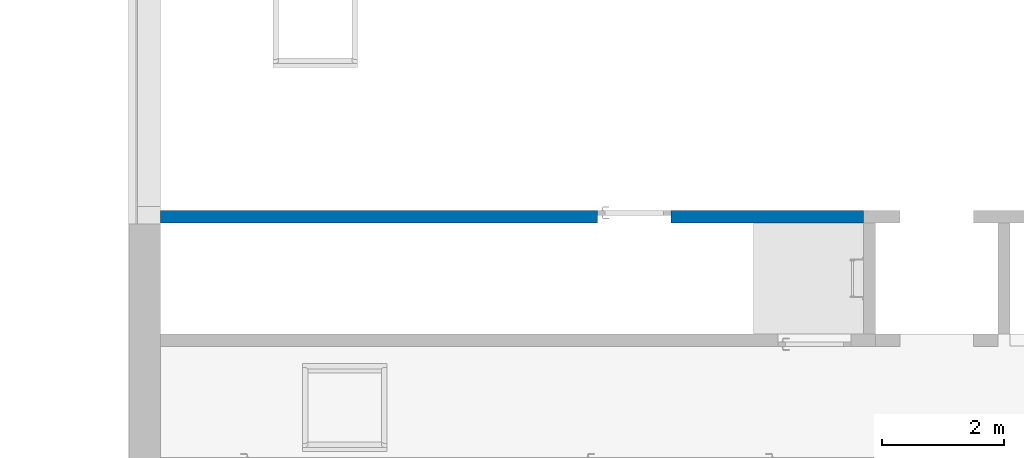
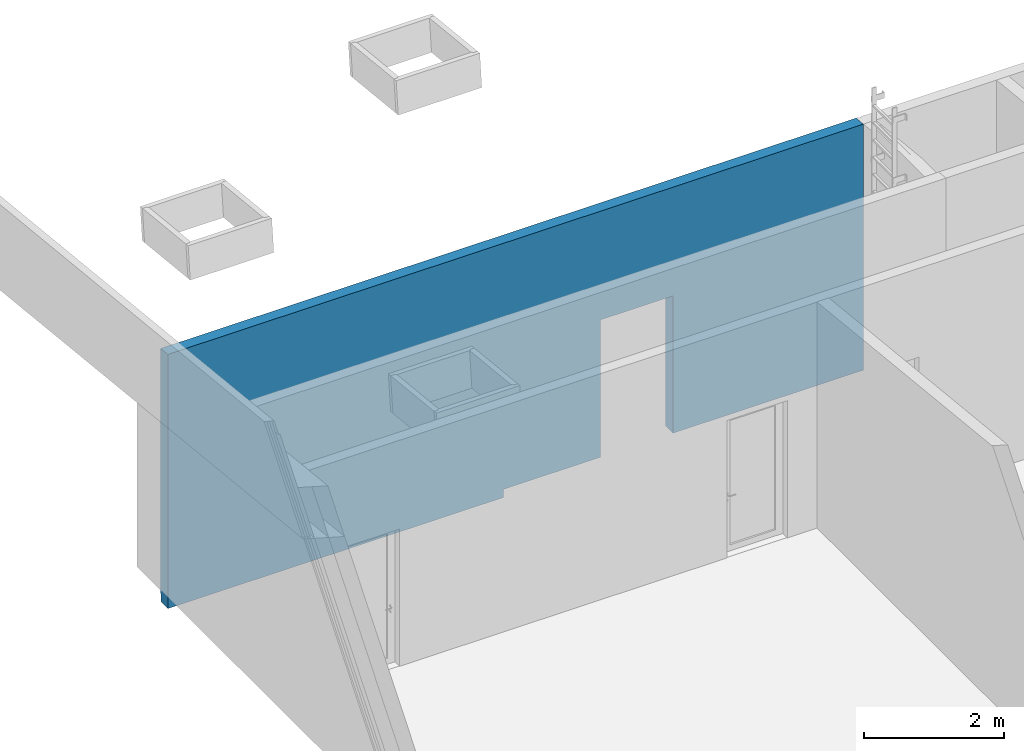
# One storey, part 5 of 23: 1 wall, 1 opening.
"""IFC2X3 building model written with IfcOpenShell, lengths in millimetres."""

import ifcopenshell
import ifcopenshell.guid

model = None  # the IFC model being written
_history = None  # IfcOwnerHistory: only IFC2X3 demands one
_inside = {}  # id of a spatial element -> (the spatial element, [elements in it])
_under = {}  # id of a project, library or spatial element -> (it, [spatial elements below it])
_declared = {}  # id of a project -> (the project, [libraries it declares])
_typed = {}  # id of a type object -> (the type object, [elements of that type])
_made_of = {}  # id of a material, layer set ... -> (it, [elements and type objects made of it])


def new_model(schema):
    """Start an empty IFC model of exactly this schema.

    Asked for "IFC4X3", IfcOpenShell would pick the latest addendum, in which some entities
    have other attributes; the version numbers below select the first issue.
    IFC2X3 requires an IfcOwnerHistory on every rooted entity: one is made here for all.
    """
    global model, _history
    if schema == "IFC4X3":
        model = ifcopenshell.file(schema_version=(4, 3, 0, 0))
    else:
        model = ifcopenshell.file(schema=schema)
    _inside.clear()
    _under.clear()
    _declared.clear()
    _typed.clear()
    _made_of.clear()
    _history = None
    if model.schema == "IFC2X3":
        org = make("IfcOrganization", Name="unknown")
        user = make(
            "IfcPersonAndOrganization",
            ThePerson=make("IfcPerson", FamilyName="unknown"),
            TheOrganization=org,
        )
        app = make(
            "IfcApplication",
            ApplicationDeveloper=org,
            Version="unknown",
            ApplicationFullName="unknown",
            ApplicationIdentifier="unknown",
        )
        _history = make(
            "IfcOwnerHistory",
            OwningUser=user,
            OwningApplication=app,
            ChangeAction="ADDED",
            CreationDate=0,
        )
    return model


def make(cls, **values):
    """One entity of the class cls with the attributes given. An attribute that is None is left unset."""
    return model.create_entity(
        cls, **{name: value for name, value in values.items() if value is not None}
    )


def entity(cls, *values):
    """Any entity or typed value of the class cls, its attributes in the order of the schema. None: left unset."""
    e = model.create_entity(cls)
    for i, value in enumerate(values):
        if value is not None:
            e[i] = value
    return e


def rooted(cls, **values):
    """An entity with a GlobalId (a new one), such as an element, a storey or a relation."""
    return make(cls, GlobalId=ifcopenshell.guid.new(), OwnerHistory=_history, **values)


def si_unit(unit_type, name, prefix=None):
    """IfcSIUnit, for example si_unit("LENGTHUNIT", "METRE", prefix="MILLI")."""
    return make("IfcSIUnit", UnitType=unit_type, Prefix=prefix, Name=name)


def converted_unit(unit_type, name, factor, base, dimensions=None, offset=None):
    """IfcConversionBasedUnit, such as the inch: factor (a typed value) times the base unit."""
    return make(
        "IfcConversionBasedUnit"
        if offset is None
        else "IfcConversionBasedUnitWithOffset",
        ConversionOffset=offset,
        Dimensions=None
        if dimensions is None
        else entity("IfcDimensionalExponents", *dimensions),
        UnitType=unit_type,
        Name=name,
        ConversionFactor=make(
            "IfcMeasureWithUnit", ValueComponent=factor, UnitComponent=base
        ),
    )


def derived_unit(unit_type, elements):
    """IfcDerivedUnit: a product of units, each with its exponent."""
    return make(
        "IfcDerivedUnit",
        Elements=[
            make("IfcDerivedUnitElement", Unit=unit, Exponent=power)
            for unit, power in elements
        ],
        UnitType=unit_type,
    )


def money_unit(currency):
    """IfcMonetaryUnit."""
    return make("IfcMonetaryUnit", Currency=currency)


def assignment(units):
    """IfcUnitAssignment: the units of a project."""
    return None if units is None else make("IfcUnitAssignment", Units=units)


def point(xyz):
    """IfcCartesianPoint."""
    return None if xyz is None else make("IfcCartesianPoint", Coordinates=xyz)


def direction(xyz):
    """IfcDirection."""
    return None if xyz is None else make("IfcDirection", DirectionRatios=xyz)


def frame(location, z_axis=None, x_axis=None):
    """IfcAxis2Placement3D, a coordinate frame: its origin and axes. An axis left out is left unset."""
    return make(
        "IfcAxis2Placement3D",
        Location=point(location),
        Axis=direction(z_axis),
        RefDirection=direction(x_axis),
    )


def origin_with_axes():
    """The frame at (0, 0, 0) with the z axis (0, 0, 1) and the x axis (1, 0, 0) written out."""
    return frame((0.0, 0.0, 0.0), z_axis=(0.0, 0.0, 1.0), x_axis=(1.0, 0.0, 0.0))


def place(relative_to, where):
    """IfcLocalPlacement: puts the frame where relative to a parent placement (None: the world)."""
    return make(
        "IfcLocalPlacement", PlacementRelTo=relative_to, RelativePlacement=where
    )


def context(
    kind, dimensions, precision=None, world=None, true_north=None, identifier=None
):
    """IfcGeometricRepresentationContext, for example the 3D "Model" context."""
    return make(
        "IfcGeometricRepresentationContext",
        ContextIdentifier=identifier,
        ContextType=kind,
        CoordinateSpaceDimension=dimensions,
        Precision=precision,
        WorldCoordinateSystem=world,
        TrueNorth=true_north,
    )


def subcontext(parent, identifier, kind, view, scale=None):
    """IfcGeometricRepresentationSubContext, for example "Body" below "Model"."""
    return make(
        "IfcGeometricRepresentationSubContext",
        ContextIdentifier=identifier,
        ContextType=kind,
        ParentContext=parent,
        TargetScale=scale,
        TargetView=view,
    )


def project(units=None, contexts=None):
    """IfcProject with its units and contexts."""
    return rooted(
        "IfcProject",
        Name="project",
        RepresentationContexts=contexts,
        UnitsInContext=assignment(units),
    )


def spatial(cls, under=None, at=None, **own):
    """A site, building, storey or space (cls), placed at a placement, below another one or the project."""
    s = rooted(cls, ObjectPlacement=at, **own)
    if under is not None:
        _under.setdefault(under.id(), (under, []))[1].append(s)
    return s


def faces_of(points, faces, orient=None, outer=None):
    """IfcFace entities. A face is a list of loops; a loop is a list of indices into points, from 0.

    orient and outer hold one flag for each loop. By default every Orientation is true, the
    first loop of a face is its IfcFaceOuterBound and the others are IfcFaceBound.
    """
    made = []
    for i, loops in enumerate(faces):
        bounds = []
        for j, loop in enumerate(loops):
            is_outer = j == 0 if outer is None else outer[i][j]
            bounds.append(
                make(
                    "IfcFaceOuterBound" if is_outer else "IfcFaceBound",
                    Bound=make("IfcPolyLoop", Polygon=[points[k] for k in loop]),
                    Orientation=True if orient is None else orient[i][j],
                )
            )
        made.append(make("IfcFace", Bounds=bounds))
    return made


def faceted_brep(points, faces, orient=None, outer=None, voids=None):
    """IfcFacetedBrep: a solid bounded by flat faces; with voids (closed shells), ...WithVoids."""
    shared = [point(p) for p in points]
    hull = make("IfcClosedShell", CfsFaces=faces_of(shared, faces, orient, outer))
    if voids is None:
        return make("IfcFacetedBrep", Outer=hull)
    return make(
        "IfcFacetedBrepWithVoids",
        Outer=hull,
        Voids=[
            make(cls, CfsFaces=faces_of(shared, fs, o, b)) for cls, fs, o, b in voids
        ],
    )


def shape(context_of_items, identifier, shape_type, items):
    """IfcShapeRepresentation: the items that make up one representation, for example the "Body"."""
    return make(
        "IfcShapeRepresentation",
        ContextOfItems=context_of_items,
        RepresentationIdentifier=identifier,
        RepresentationType=shape_type,
        Items=items,
    )


def material(Name=None, Category=None):
    """IfcMaterial."""
    return make("IfcMaterial", Name=Name, Category=Category)


def material_list(materials):
    """IfcMaterialList."""
    return make("IfcMaterialList", Materials=materials)


def made_of(thing, what):
    """Note that an element or type object is made of a material, layer set ...; save() writes the relation."""
    if what is not None:
        _made_of.setdefault(what.id(), (what, []))[1].append(thing)
    return thing


def type_object(cls, material=None, **own):
    """A type object (cls), such as IfcWallType, which elements share."""
    return made_of(rooted(cls, **own), material)


def element(
    cls,
    number,
    at=None,
    inside=None,
    cuts=None,
    type_object=None,
    material=None,
    context=None,
    identifier="Body",
    shape_type=None,
    held_by="IfcProductDefinitionShape",
    body=None,
    shapes=None,
    **own,
):
    """One element of the class cls, such as IfcWall. Its Tag is "e" and its number.

    at: its placement. inside: the storey or other place that contains it. cuts: it is an
    opening in that element (IfcRelVoidsElement). A single representation is given by context,
    identifier, shape_type and body (its items); several are given by shapes. held_by: the class
    of the entity that holds the representations. save() writes the other relations.
    """
    e = rooted(cls, Tag="e%d" % number, ObjectPlacement=at, **own)
    if body is not None:
        shapes = [shape(context, identifier, shape_type, body)]
    if shapes is not None:
        e.Representation = make(held_by, Representations=shapes)
    if inside is not None:
        _inside.setdefault(inside.id(), (inside, []))[1].append(e)
    if cuts is not None:
        rooted(
            "IfcRelVoidsElement", RelatingBuildingElement=cuts, RelatedOpeningElement=e
        )
    if type_object is not None:
        _typed.setdefault(type_object.id(), (type_object, []))[1].append(e)
    return made_of(e, material)


def aggregate(whole, parts):
    """IfcRelAggregates: a whole, such as a stair, and the parts it consists of."""
    return rooted("IfcRelAggregates", RelatingObject=whole, RelatedObjects=parts)


def save(model, path):
    """Write the relations noted so far, then the file.

    IfcRelAggregates (storeys below a building ...), IfcRelContainedInSpatialStructure (elements
    in a storey), IfcRelDefinesByType, IfcRelAssociatesMaterial and IfcRelDeclares: one each for
    every whole, place, type object, material and project.
    """
    for whole, parts in _under.values():
        aggregate(whole, parts)
    for where, things in _inside.values():
        rooted(
            "IfcRelContainedInSpatialStructure",
            RelatedElements=things,
            RelatingStructure=where,
        )
    for kind, things in _typed.values():
        rooted("IfcRelDefinesByType", RelatedObjects=things, RelatingType=kind)
    for what, things in _made_of.values():
        rooted("IfcRelAssociatesMaterial", RelatedObjects=things, RelatingMaterial=what)
    for by, libraries in _declared.values():
        rooted("IfcRelDeclares", RelatingContext=by, RelatedDefinitions=libraries)
    model.write(path)


model = new_model("IFC2X3")

# Units and contexts
model_context = context("Model", 3, precision=0.01, world=origin_with_axes(), true_north=direction((0.0, 1.0)))
body_context = subcontext(model_context, "Body", "Model", "MODEL_VIEW")
ifc_project = project(units=[si_unit("LENGTHUNIT", "METRE", prefix="MILLI"), si_unit("AREAUNIT", "SQUARE_METRE"), si_unit("VOLUMEUNIT", "CUBIC_METRE"), converted_unit("PLANEANGLEUNIT", "DEGREE", entity("IfcPlaneAngleMeasure", 0.0174532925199), si_unit("PLANEANGLEUNIT", "RADIAN"), dimensions=[0, 0, 0, 0, 0, 0, 0]), si_unit("SOLIDANGLEUNIT", "STERADIAN"), money_unit("EUR"), converted_unit("TIMEUNIT", "Year", entity("IfcTimeMeasure", 31556926.0), si_unit("TIMEUNIT", "SECOND"), dimensions=[0, 0, 1, 0, 0, 0, 0]), si_unit("MASSUNIT", "GRAM", prefix="KILO"), si_unit("THERMODYNAMICTEMPERATUREUNIT", "DEGREE_CELSIUS"), si_unit("LUMINOUSINTENSITYUNIT", "LUMEN"), si_unit("ENERGYUNIT", "JOULE", prefix="MEGA"), derived_unit("THERMALCONDUCTANCEUNIT", [(si_unit("POWERUNIT", "WATT"), 1), (si_unit("LENGTHUNIT", "METRE"), -1), (si_unit("THERMODYNAMICTEMPERATUREUNIT", "KELVIN"), -1)]), derived_unit("SPECIFICHEATCAPACITYUNIT", [(si_unit("ENERGYUNIT", "JOULE"), 1), (si_unit("MASSUNIT", "GRAM", prefix="KILO"), -1), (si_unit("THERMODYNAMICTEMPERATUREUNIT", "KELVIN"), -1)]), derived_unit("MASSDENSITYUNIT", [(si_unit("MASSUNIT", "GRAM", prefix="KILO"), 1), (si_unit("VOLUMEUNIT", "CUBIC_METRE"), -1)])], contexts=[model_context])

# Site, building, storey
site_placement = place(None, origin_with_axes())
site = spatial("IfcSite", under=ifc_project, at=site_placement, Name="L.Koidula tn 11b", CompositionType="ELEMENT")
building_placement = place(site_placement, origin_with_axes())
building = spatial("IfcBuilding", under=site, at=building_placement, Name="Rakvere Riigigümnaasium", CompositionType="ELEMENT")
storey_placement = place(building_placement, frame((0.0, 0.0, 7440.0), z_axis=(0.0, 0.0, 1.0), x_axis=(1.0, 0.0, 0.0)))
storey = spatial("IfcBuildingStorey", under=building, at=storey_placement, Name="3.korrus +7,44", CompositionType="ELEMENT", Elevation=7440.0)

# Wall, opening
ifc_material_1 = material(Name="Betoon element / plaat")
ifc_material_2 = material(Name="siseviimistlus-seinad")
ifc_material_list = material_list([ifc_material_1, ifc_material_2])
wall_type = type_object("IfcWallType", Name="SS-01-1 210", PredefinedType="NOTDEFINED")
wall_placement = place(storey_placement, frame((46999.9999935, 17110.4555095, -917.548582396), z_axis=(0.0, 0.0, 1.0), x_axis=(-1.0, 0.0, 0.0)))
wall = element("IfcWall", 1, at=wall_placement, inside=storey, type_object=wall_type, material=ifc_material_list, Name="Sisesein", context=body_context, shape_type="Brep", body=[
    faceted_brep([(11499.9999413, -200.000000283, 4422.96698468), (-2.01524130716e-07, -200.00000596, 4422.79241919), (-2.59807819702e-06, -200.00000596, 917.548582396), (-2.59807819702e-06, -200.000000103, 142.548582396), (3149.99999702, -200.000000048, 142.548582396), (3149.99999702, -200.000000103, 2542.5485824), (4349.99999702, -200.000000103, 2542.5485824), (4349.99999702, -200.000000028, 142.548582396), (5949.99901133, -200.0, 142.548582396), (5949.99901133, -200.0, 0.0), (11499.9999413, -200.0, 0.0), (-1.87156956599e-07, -1.19209389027e-05, 4443.81326539), (11499.9999413, -5.69180258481e-07, 4443.98783148), (-2.59807819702e-06, -1.19209389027e-05, 917.548582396), (-2.59807819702e-06, 0.0, 142.548582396), (3149.99999702, 0.0, 142.548582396), (3149.99999702, -1.19209389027e-05, 2542.5485824), (4349.99999702, -1.19209389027e-05, 2542.5485824), (4349.99999702, 0.0, 142.548582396), (5949.99901133, 0.0, 142.548582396), (5949.99901133, 0.0, 0.0), (11499.9999413, 0.0, 0.0)], [[[0, 1, 2, 3, 4, 5, 6, 7, 8, 9, 10]], [[11, 1, 0, 12]], [[1, 11, 13, 14, 3, 2]], [[15, 4, 3, 14]], [[16, 5, 4, 15]], [[17, 6, 5, 16]], [[18, 7, 6, 17]], [[8, 7, 18, 19]], [[9, 8, 19, 20]], [[9, 20, 21, 10]], [[12, 0, 10, 21]], [[11, 12, 21, 20, 19, 18, 17, 16, 15, 14, 13]]]),
    faceted_brep([(11499.9999413, -210.0, 4421.91594237), (0.0, -210.0, 4421.74137747), (0.0, -210.0, 917.548582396), (9.99999852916, -210.0, 917.548582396), (9.99999852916, -209.999999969, 142.548582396), (3149.99999702, -209.999999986, 142.548582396), (3149.99999702, -210.0, 2542.5485824), (4349.99999702, -210.0, 2542.5485824), (4349.99999702, -209.999999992, 142.548582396), (5949.99901133, -210.0, 142.548582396), (5949.99901133, -210.0, 137.548582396), (11499.9999413, -210.0, 137.548582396), (0.0, -200.00000596, 4422.79241919), (11499.9999413, -200.00000028, 4422.96698468), (0.0, -200.00000596, 917.548582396), (9.99999852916, -200.000000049, 917.548582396), (9.99999852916, -200.000000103, 142.548582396), (3149.99999702, -200.000000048, 142.548582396), (3149.99999702, -199.999999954, 2542.5485824), (4349.99999702, -199.999999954, 2542.5485824), (4349.99999702, -200.000000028, 142.548582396), (5949.99901133, -200.0, 142.548582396), (5949.99901133, -199.999999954, 137.548582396), (11499.9999413, -199.999999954, 137.548582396)], [[[0, 1, 2, 3, 4, 5, 6, 7, 8, 9, 10, 11]], [[12, 1, 0, 13]], [[1, 12, 14, 2]], [[15, 3, 2, 14]], [[16, 4, 3, 15]], [[16, 17, 5, 4]], [[18, 6, 5, 17]], [[19, 7, 6, 18]], [[20, 8, 7, 19]], [[9, 8, 20, 21]], [[22, 10, 9, 21]], [[11, 10, 22, 23]], [[13, 0, 11, 23]], [[12, 13, 23, 22, 21, 20, 19, 18, 17, 16, 15, 14]]]),
])
opening_placement = place(wall_placement, frame((3749.99999702, 0.0, 142.548582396), z_axis=(0.0, 0.0, 1.0), x_axis=(1.0, 0.0, 0.0)))
element("IfcOpeningElement", 2, at=opening_placement, cuts=wall, Name="SU-061", context=body_context, shape_type="Brep", body=[
    faceted_brep([(-600.0, 210.0, 2400.0), (-600.0, 210.0, 0.0), (-600.0, -130.0, 0.0), (-600.0, -130.0, 2400.0), (600.0, 210.0, 2400.0), (600.0, 210.0, 0.0), (600.0, -130.0, 0.0), (600.0, -130.0, 2400.0)], [[[0, 1, 2, 3]], [[0, 4, 5, 1]], [[1, 5, 6, 2]], [[3, 2, 6, 7]], [[4, 0, 3, 7]], [[5, 4, 7, 6]]]),
    faceted_brep([(-600.0, -420.0, 0.0), (-600.0, -420.0, 2400.0), (-600.0, -130.0, 2400.0), (-600.0, -130.0, 0.0), (600.0, -420.0, 0.0), (600.0, -420.0, 2400.0), (600.0, -130.0, 2400.0), (600.0, -130.0, 0.0)], [[[0, 1, 2, 3]], [[0, 4, 5, 1]], [[1, 5, 6, 2]], [[3, 2, 6, 7]], [[4, 0, 3, 7]], [[5, 4, 7, 6]]]),
])

save(model, "model.ifc")
